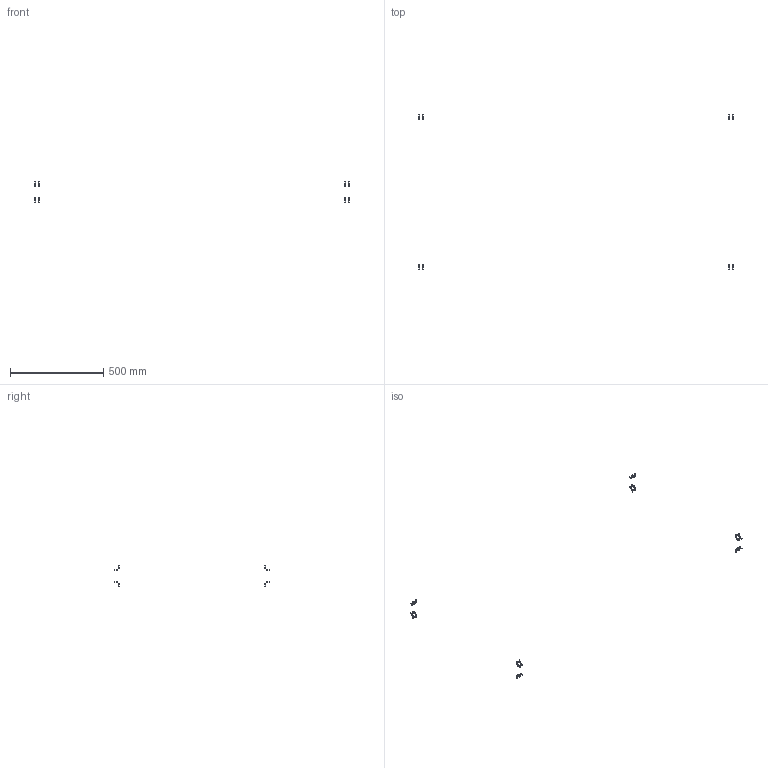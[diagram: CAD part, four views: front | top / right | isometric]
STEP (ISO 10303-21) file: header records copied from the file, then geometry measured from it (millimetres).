
FILE_DESCRIPTION(/* description */ (''),/* implementation_level */ '2;1');
FILE_NAME(/* name */ '3.frame-top#3.2#CB5-10',/* time_stamp */ '2014-12-01T20:11:51+01:00',/* author */ (''),/* organization */ (''),/* preprocessor_version */ 'ST-DEVELOPER v14',/* originating_system */ '',/* authorisation */ '');
FILE_SCHEMA (('AUTOMOTIVE_DESIGN'));
Length unit declared in the file: millimetre
Products named in the file (2): Document; screw DIN912-like, M5x10
Assembly tree (16 placements, depth 2):
  Document
    screw DIN912-like, M5x10  x16
Bounding box: 1688.5 x 831 x 111 mm (x, y, z)
Volume: 14029.7 mm3; surface area: 13643.9 mm2
Topology: 32 solids, 32 shells, 800 faces, 1792 edges, 1056 vertices
Faces by surface type: plane 480, bspline 320
Entity records: 23221 total; most frequent: CARTESIAN_POINT 10695, B_SPLINE_CURVE_WITH_KNOTS 2142, ORIENTED_EDGE 1836, PCURVE 1836, DEFINITIONAL_REPRESENTATION 1836, SURFACE_CURVE 918, EDGE_CURVE 918, VERTEX_POINT 561
